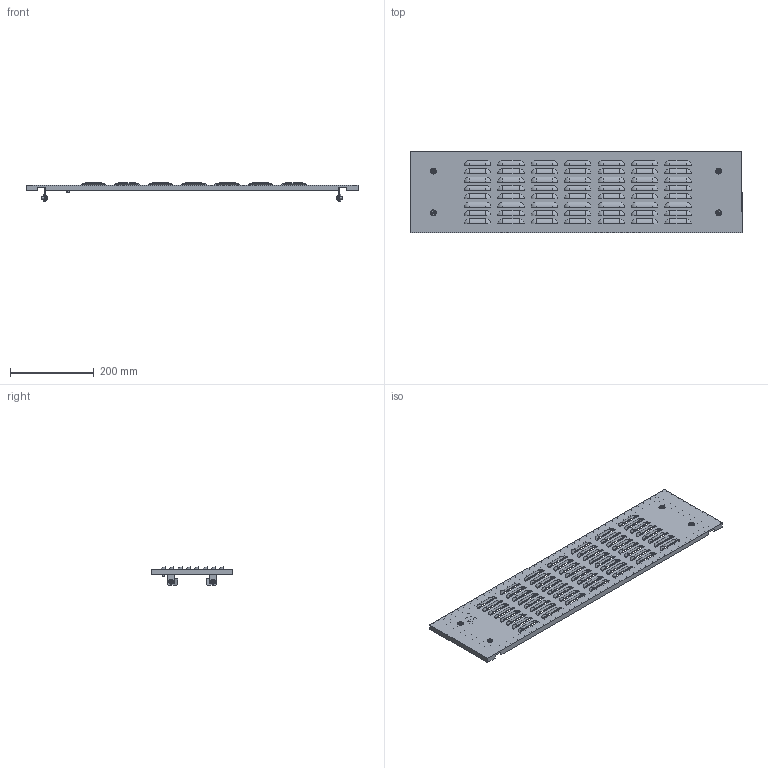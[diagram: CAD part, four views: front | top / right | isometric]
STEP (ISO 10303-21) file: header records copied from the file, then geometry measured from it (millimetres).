
FILE_DESCRIPTION (( 'STEP AP214' ), '1' );
FILE_NAME ('FO-00-PWSV-020-080 Ôàëüø-ïàíåëü âíåøíÿÿ âåíòèëèðóåìàÿ 200õ800 ìì.STEP', '2025-08-25T07:46:41', ( '' ), ( '' ), 'SwSTEP 2.0', 'SolidWorks 2023', '' );
FILE_SCHEMA (( 'AUTOMOTIVE_DESIGN' ));
Length unit declared in the file: millimetre
Products named in the file (1): FO-00-PWSV-020-080 Фальш-панель внешняя вентилируемая 200х800 мм
Bounding box: 795 x 196 x 43.5 mm (x, y, z)
Volume: 439277.6 mm3; surface area: 405083 mm2
Topology: 1 solids, 10 shells, 1462 faces, 3933 edges, 2287 vertices
Faces by surface type: plane 666, cylinder 486, sphere 224, cone 62, torus 24
Entity records: 44700 total; most frequent: DIRECTION 8193, CARTESIAN_POINT 8029, ORIENTED_EDGE 7414, EDGE_CURVE 3707, AXIS2_PLACEMENT_3D 3055, VERTEX_POINT 2287, LINE 2083, VECTOR 2083
